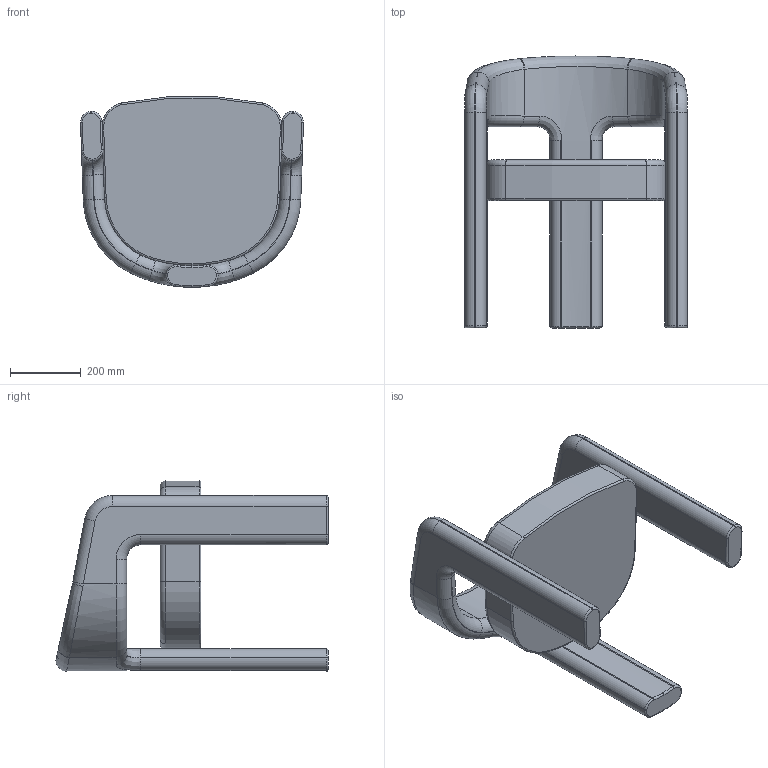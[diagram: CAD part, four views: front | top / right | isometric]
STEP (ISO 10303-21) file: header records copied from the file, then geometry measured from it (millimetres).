
FILE_DESCRIPTION (( 'STEP AP203' ), '1' );
FILE_NAME ('EGLE_3D web.STEP', '2025-04-24T09:49:34', ( '' ), ( '' ), 'SwSTEP 2.0', 'SolidWorks 2022', '' );
FILE_SCHEMA (( 'CONFIG_CONTROL_DESIGN' ));
Length unit declared in the file: millimetre
Products named in the file (1): EGLE_3D web
Bounding box: 631.33 x 770 x 539.77 mm (x, y, z)
Volume: 50108408.6 mm3; surface area: 1738949.1 mm2
Topology: 2 solids, 2 shells, 149 faces, 349 edges, 204 vertices
Faces by surface type: cylinder 58, torus 48, bspline 22, plane 21
Entity records: 7482 total; most frequent: CARTESIAN_POINT 4072, DIRECTION 738, ORIENTED_EDGE 698, EDGE_CURVE 349, AXIS2_PLACEMENT_3D 316, VERTEX_POINT 204, CIRCLE 188, ADVANCED_FACE 149
